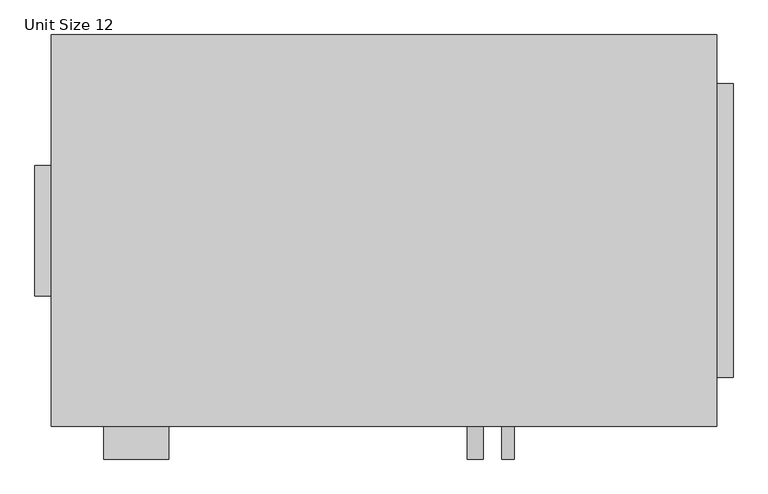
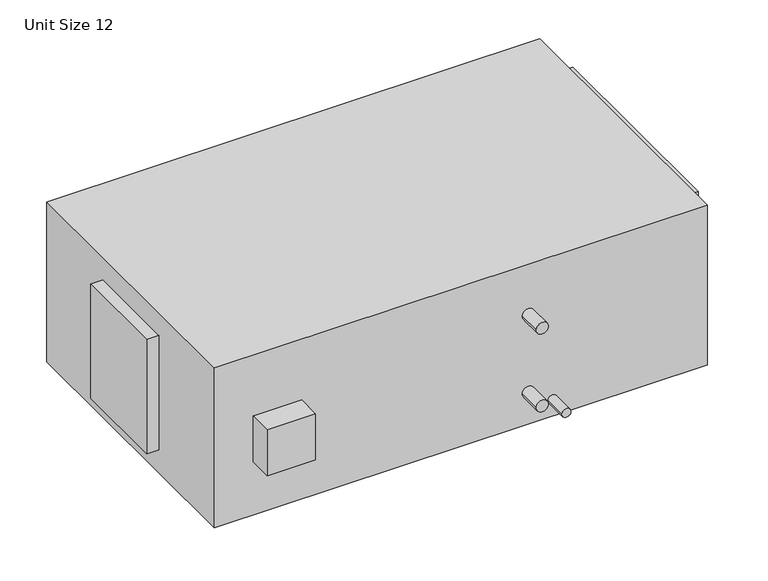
"""IFC4 building model written with IfcOpenShell, lengths in millimetres: proxy geometry, Indoor AHU - Horizontal - Chilled Water Coil : Unit Size 12."""

import ifcopenshell
import ifcopenshell.guid

model = None  # the IFC model being written
_history = None  # IfcOwnerHistory: only IFC2X3 demands one
_inside = {}  # id of a spatial element -> (the spatial element, [elements in it])
_under = {}  # id of a project, library or spatial element -> (it, [spatial elements below it])
_declared = {}  # id of a project -> (the project, [libraries it declares])
_typed = {}  # id of a type object -> (the type object, [elements of that type])
_made_of = {}  # id of a material, layer set ... -> (it, [elements and type objects made of it])


def new_model(schema):
    """Start an empty IFC model of exactly this schema.

    Asked for "IFC4X3", IfcOpenShell would pick the latest addendum, in which some entities
    have other attributes; the version numbers below select the first issue.
    IFC2X3 requires an IfcOwnerHistory on every rooted entity: one is made here for all.
    """
    global model, _history
    if schema == "IFC4X3":
        model = ifcopenshell.file(schema_version=(4, 3, 0, 0))
    else:
        model = ifcopenshell.file(schema=schema)
    _inside.clear()
    _under.clear()
    _declared.clear()
    _typed.clear()
    _made_of.clear()
    _history = None
    if model.schema == "IFC2X3":
        org = make("IfcOrganization", Name="unknown")
        user = make(
            "IfcPersonAndOrganization",
            ThePerson=make("IfcPerson", FamilyName="unknown"),
            TheOrganization=org,
        )
        app = make(
            "IfcApplication",
            ApplicationDeveloper=org,
            Version="unknown",
            ApplicationFullName="unknown",
            ApplicationIdentifier="unknown",
        )
        _history = make(
            "IfcOwnerHistory",
            OwningUser=user,
            OwningApplication=app,
            ChangeAction="ADDED",
            CreationDate=0,
        )
    return model


def make(cls, **values):
    """One entity of the class cls with the attributes given. An attribute that is None is left unset."""
    return model.create_entity(
        cls, **{name: value for name, value in values.items() if value is not None}
    )


def rooted(cls, **values):
    """An entity with a GlobalId (a new one), such as an element, a storey or a relation."""
    return make(cls, GlobalId=ifcopenshell.guid.new(), OwnerHistory=_history, **values)


def si_unit(unit_type, name, prefix=None):
    """IfcSIUnit, for example si_unit("LENGTHUNIT", "METRE", prefix="MILLI")."""
    return make("IfcSIUnit", UnitType=unit_type, Prefix=prefix, Name=name)


def assignment(units):
    """IfcUnitAssignment: the units of a project."""
    return None if units is None else make("IfcUnitAssignment", Units=units)


def point(xyz):
    """IfcCartesianPoint."""
    return None if xyz is None else make("IfcCartesianPoint", Coordinates=xyz)


def direction(xyz):
    """IfcDirection."""
    return None if xyz is None else make("IfcDirection", DirectionRatios=xyz)


def frame(location, z_axis=None, x_axis=None):
    """IfcAxis2Placement3D, a coordinate frame: its origin and axes. An axis left out is left unset."""
    return make(
        "IfcAxis2Placement3D",
        Location=point(location),
        Axis=direction(z_axis),
        RefDirection=direction(x_axis),
    )


def frame_2d(location, x_axis=None):
    """IfcAxis2Placement2D, a coordinate frame in the plane: its origin and x axis."""
    return make(
        "IfcAxis2Placement2D", Location=point(location), RefDirection=direction(x_axis)
    )


def origin():
    """The frame at (0, 0, 0) with its axes left unset."""
    return frame((0.0, 0.0, 0.0))


def origin_with_axes():
    """The frame at (0, 0, 0) with the z axis (0, 0, 1) and the x axis (1, 0, 0) written out."""
    return frame((0.0, 0.0, 0.0), z_axis=(0.0, 0.0, 1.0), x_axis=(1.0, 0.0, 0.0))


def place(relative_to, where):
    """IfcLocalPlacement: puts the frame where relative to a parent placement (None: the world)."""
    return make(
        "IfcLocalPlacement", PlacementRelTo=relative_to, RelativePlacement=where
    )


def context(
    kind, dimensions, precision=None, world=None, true_north=None, identifier=None
):
    """IfcGeometricRepresentationContext, for example the 3D "Model" context."""
    return make(
        "IfcGeometricRepresentationContext",
        ContextIdentifier=identifier,
        ContextType=kind,
        CoordinateSpaceDimension=dimensions,
        Precision=precision,
        WorldCoordinateSystem=world,
        TrueNorth=true_north,
    )


def project(units=None, contexts=None):
    """IfcProject with its units and contexts."""
    return rooted(
        "IfcProject",
        Name="project",
        RepresentationContexts=contexts,
        UnitsInContext=assignment(units),
    )


def spatial(cls, under=None, at=None, **own):
    """A site, building, storey or space (cls), placed at a placement, below another one or the project."""
    s = rooted(cls, ObjectPlacement=at, **own)
    if under is not None:
        _under.setdefault(under.id(), (under, []))[1].append(s)
    return s


def polyline(points):
    """IfcPolyline through the points."""
    return make("IfcPolyline", Points=[point(p) for p in points])


def circle_curve(where, radius):
    """IfcCircle in the frame where."""
    return make("IfcCircle", Position=where, Radius=radius)


def trimmed(basis, trim1, trim2, sense, master):
    """IfcTrimmedCurve: the piece of a basis curve between two trims."""
    return make(
        "IfcTrimmedCurve",
        BasisCurve=basis,
        Trim1=trim1,
        Trim2=trim2,
        SenseAgreement=sense,
        MasterRepresentation=master,
    )


def segment(curve, same_sense, transition):
    """IfcCompositeCurveSegment."""
    return make(
        "IfcCompositeCurveSegment",
        Transition=transition,
        SameSense=same_sense,
        ParentCurve=curve,
    )


def composite_curve(segments, self_intersect=None):
    """IfcCompositeCurve: segments joined end to end."""
    return make("IfcCompositeCurve", Segments=segments, SelfIntersect=self_intersect)


def outline(outer, holes=None, kind="AREA"):
    """IfcArbitraryClosedProfileDef: a profile drawn as a closed curve; with holes, ...WithVoids."""
    if holes is None:
        return make("IfcArbitraryClosedProfileDef", ProfileType=kind, OuterCurve=outer)
    return make(
        "IfcArbitraryProfileDefWithVoids",
        ProfileType=kind,
        OuterCurve=outer,
        InnerCurves=holes,
    )


def extrude(swept, where, along, depth):
    """IfcExtrudedAreaSolid: the profile swept, set in the frame where, extruded along a direction by depth."""
    return make(
        "IfcExtrudedAreaSolid",
        SweptArea=swept,
        Position=where,
        ExtrudedDirection=direction(along),
        Depth=depth,
    )


def shape(context_of_items, identifier, shape_type, items):
    """IfcShapeRepresentation: the items that make up one representation, for example the "Body"."""
    return make(
        "IfcShapeRepresentation",
        ContextOfItems=context_of_items,
        RepresentationIdentifier=identifier,
        RepresentationType=shape_type,
        Items=items,
    )


def source(mapping_origin, context_of_items, identifier, shape_type, items):
    """IfcRepresentationMap: a shape defined once, which mapped items show again and again."""
    return make(
        "IfcRepresentationMap",
        MappingOrigin=mapping_origin,
        MappedRepresentation=shape(context_of_items, identifier, shape_type, items),
    )


def transform(
    local_origin,
    x_axis=None,
    y_axis=None,
    z_axis=None,
    scale=None,
    scale2=None,
    scale3=None,
    uniform=True,
):
    """IfcCartesianTransformationOperator3D, or its non-uniform kind. x_axis, y_axis, z_axis: its Axis1, 2, 3."""
    if uniform:
        return make(
            "IfcCartesianTransformationOperator3D",
            Axis1=direction(x_axis),
            Axis2=direction(y_axis),
            LocalOrigin=point(local_origin),
            Scale=scale,
            Axis3=direction(z_axis),
        )
    return make(
        "IfcCartesianTransformationOperator3DnonUniform",
        Axis1=direction(x_axis),
        Axis2=direction(y_axis),
        LocalOrigin=point(local_origin),
        Scale=scale,
        Axis3=direction(z_axis),
        Scale2=scale2,
        Scale3=scale3,
    )


def mapped(mapping_source, mapping_target):
    """IfcMappedItem: shows the shape of a source again, moved by a transform."""
    return make(
        "IfcMappedItem", MappingSource=mapping_source, MappingTarget=mapping_target
    )


def made_of(thing, what):
    """Note that an element or type object is made of a material, layer set ...; save() writes the relation."""
    if what is not None:
        _made_of.setdefault(what.id(), (what, []))[1].append(thing)
    return thing


def element(
    cls,
    number,
    at=None,
    inside=None,
    cuts=None,
    type_object=None,
    material=None,
    context=None,
    identifier="Body",
    shape_type=None,
    held_by="IfcProductDefinitionShape",
    body=None,
    shapes=None,
    **own,
):
    """One element of the class cls, such as IfcWall. Its Tag is "e" and its number.

    at: its placement. inside: the storey or other place that contains it. cuts: it is an
    opening in that element (IfcRelVoidsElement). A single representation is given by context,
    identifier, shape_type and body (its items); several are given by shapes. held_by: the class
    of the entity that holds the representations. save() writes the other relations.
    """
    e = rooted(cls, Tag="e%d" % number, ObjectPlacement=at, **own)
    if body is not None:
        shapes = [shape(context, identifier, shape_type, body)]
    if shapes is not None:
        e.Representation = make(held_by, Representations=shapes)
    if inside is not None:
        _inside.setdefault(inside.id(), (inside, []))[1].append(e)
    if cuts is not None:
        rooted(
            "IfcRelVoidsElement", RelatingBuildingElement=cuts, RelatedOpeningElement=e
        )
    if type_object is not None:
        _typed.setdefault(type_object.id(), (type_object, []))[1].append(e)
    return made_of(e, material)


def aggregate(whole, parts):
    """IfcRelAggregates: a whole, such as a stair, and the parts it consists of."""
    return rooted("IfcRelAggregates", RelatingObject=whole, RelatedObjects=parts)


def save(model, path):
    """Write the relations noted so far, then the file.

    IfcRelAggregates (storeys below a building ...), IfcRelContainedInSpatialStructure (elements
    in a storey), IfcRelDefinesByType, IfcRelAssociatesMaterial and IfcRelDeclares: one each for
    every whole, place, type object, material and project.
    """
    for whole, parts in _under.values():
        aggregate(whole, parts)
    for where, things in _inside.values():
        rooted(
            "IfcRelContainedInSpatialStructure",
            RelatedElements=things,
            RelatingStructure=where,
        )
    for kind, things in _typed.values():
        rooted("IfcRelDefinesByType", RelatedObjects=things, RelatingType=kind)
    for what, things in _made_of.values():
        rooted("IfcRelAssociatesMaterial", RelatedObjects=things, RelatingMaterial=what)
    for by, libraries in _declared.values():
        rooted("IfcRelDeclares", RelatingContext=by, RelatedDefinitions=libraries)
    model.write(path)


def unit_size_12_6a13f6ba(model_context):
    return source(origin(), model_context, "Body", "SweptSolid", [
        extrude(outline(polyline([(0.0, 406.4), (0.0, 203.2), (-25.4, 203.2), (-25.4, 406.4), (0.0, 406.4)])), frame((0.0, 0.0, 50.8), z_axis=(0.0, 0.0, 1.0), x_axis=(1.0, 0.0, 0.0)), (0.0, 0.0, 1.0), 254.0),
        extrude(outline(polyline([(1060.45, 533.4), (1060.45, 76.2), (1035.05, 76.2), (1035.05, 533.4), (1060.45, 533.4)])), frame((0.0, 0.0, 25.4), z_axis=(0.0, 0.0, 1.0), x_axis=(1.0, 0.0, 0.0)), (0.0, 0.0, 1.0), 304.8),
        extrude(outline(polyline([(182.88, -50.8), (81.28, -50.8), (81.28, 0.0), (182.88, 0.0), (182.88, -50.8)])), frame((0.0, 0.0, 118.872), z_axis=(0.0, 0.0, 1.0), x_axis=(1.0, 0.0, 0.0)), (0.0, 0.0, 1.0), 101.6),
        extrude(outline(composite_curve([segment(trimmed(circle_curve(frame_2d((244.3757813, 659.384)), 12.7), [point((244.3757813, 646.684))], [point((244.3757813, 672.084))], False, "CARTESIAN"), True, "CONTINUOUS"), segment(trimmed(circle_curve(frame_2d((244.3757813, 659.384)), 12.7), [point((244.3757813, 672.084))], [point((244.3757813, 646.684))], False, "CARTESIAN"), True, "CONTINUOUS")], self_intersect=False)), frame((0.0, -50.8, 0.0), z_axis=(0.0, 1.0, 0.0), x_axis=(0.0, 0.0, 1.0)), (0.0, 0.0, 1.0), 50.8),
        extrude(outline(composite_curve([segment(trimmed(circle_curve(frame_2d((71.6359375, 659.384)), 12.7), [point((71.6359375, 646.684))], [point((71.6359375, 672.084))], False, "CARTESIAN"), True, "CONTINUOUS"), segment(trimmed(circle_curve(frame_2d((71.6359375, 659.384)), 12.7), [point((71.6359375, 672.084))], [point((71.6359375, 646.684))], False, "CARTESIAN"), True, "CONTINUOUS")], self_intersect=False)), frame((0.0, -50.8, 0.0), z_axis=(0.0, 1.0, 0.0), x_axis=(0.0, 0.0, 1.0)), (0.0, 0.0, 1.0), 50.8),
        extrude(outline(composite_curve([segment(trimmed(circle_curve(frame_2d((38.1, 710.184)), 9.525), [point((38.1, 700.659))], [point((38.1, 719.709))], False, "CARTESIAN"), True, "CONTINUOUS"), segment(trimmed(circle_curve(frame_2d((38.1, 710.184)), 9.525), [point((38.1, 719.709))], [point((38.1, 700.659))], False, "CARTESIAN"), True, "CONTINUOUS")], self_intersect=False)), frame((0.0, -50.8, 0.0), z_axis=(0.0, 1.0, 0.0), x_axis=(0.0, 0.0, 1.0)), (0.0, 0.0, 1.0), 50.8),
        extrude(outline(polyline([(1035.05, 609.6), (1035.05, 0.0), (0.0, 0.0), (0.0, 609.6), (1035.05, 609.6)])), origin_with_axes(), (0.0, 0.0, 1.0), 355.6),
    ])


if __name__ == "__main__":
    model = new_model("IFC4")
    model_context = context("Model", 3, world=origin())
    ifc_project = project(units=[si_unit("LENGTHUNIT", "METRE", prefix="MILLI")], contexts=[model_context])
    site = spatial("IfcSite", under=ifc_project)
    building = spatial("IfcBuilding", under=site)
    placement = place(None, origin())
    unit_size_12_shape = unit_size_12_6a13f6ba(model_context)
    element("IfcBuildingElementProxy", 1, Name="Indoor AHU - Horizontal - Chilled Water Coil : Unit Size 12", ObjectType="Indoor AHU - Horizontal - Chilled Water Coil : Unit Size 12", at=placement, inside=building, context=model_context, shape_type="MappedRepresentation", body=[
        mapped(unit_size_12_shape, transform((0.0, 0.0, 0.0), x_axis=(1.0, 0.0, 0.0), y_axis=(0.0, 1.0, 0.0), z_axis=(0.0, 0.0, 1.0))),
    ])
    save(model, "model.ifc")
